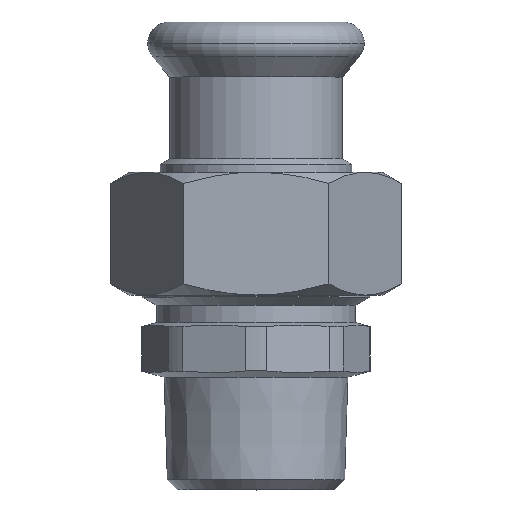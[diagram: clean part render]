
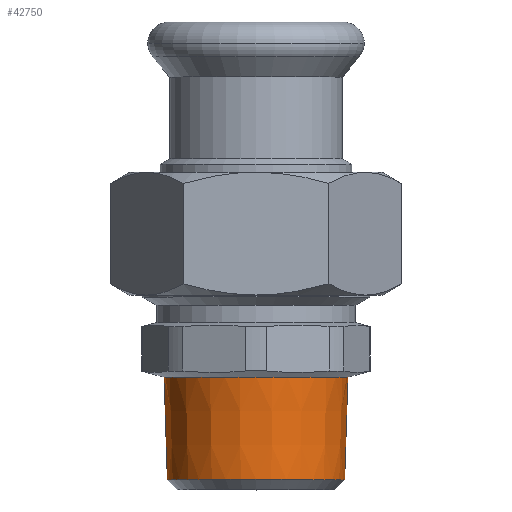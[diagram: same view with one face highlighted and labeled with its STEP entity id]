
A CAD part, top view. The second image highlights one B-rep face of the part: STEP entity #42750.
In plain terms, the highlighted conical face has half-angle 1.79 degrees and reference radius 13.453 mm.
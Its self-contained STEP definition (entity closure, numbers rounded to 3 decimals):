
#40180=CARTESIAN_POINT('',(-332.744,12.935,
0.));
#40190=VERTEX_POINT('',#40180);
#42300=CARTESIAN_POINT('',(-305.838,12.935,0.));
#42310=VERTEX_POINT('',#42300);
#42340=CARTESIAN_POINT('',(-319.291,12.935,0.));
#42350=DIRECTION('',(0.,1.,0.));
#42360=DIRECTION('',(1.,0.,0.));
#42370=AXIS2_PLACEMENT_3D('',#42340,#42350,#42360);
#42380=CIRCLE('',#42370,13.453);
#42390=EDGE_CURVE('',#40190,#42310,#42380,.T.);
#42440=CARTESIAN_POINT('',(-319.291,12.935,0.));
#42450=DIRECTION('',(0.,1.,0.));
#42460=DIRECTION('',(1.,0.,0.));
#42470=AXIS2_PLACEMENT_3D('',#42440,#42450,#42460);
#42480=CONICAL_SURFACE('',#42470,13.453,0.031);
#42490=CARTESIAN_POINT('',(-332.744,12.935,
0.));
#42500=DIRECTION('',(-0.031,1.,
0.));
#42510=VECTOR('',#42500,1.);
#42520=LINE('',#42490,#42510);
#42530=CARTESIAN_POINT('',(-332.275,-2.065,
0.));
#42540=VERTEX_POINT('',#42530);
#42550=EDGE_CURVE('',#42540,#40190,#42520,.T.);
#42560=ORIENTED_EDGE('',*,*,#42550,.F.);
#42570=ORIENTED_EDGE('',*,*,#42390,.F.);
#42580=CARTESIAN_POINT('',(-305.838,12.935,0.));
#42590=DIRECTION('',(0.031,1.,0.));
#42600=VECTOR('',#42590,1.);
#42610=LINE('',#42580,#42600);
#42620=CARTESIAN_POINT('',(-306.307,-2.065,0.));
#42630=VERTEX_POINT('',#42620);
#42640=EDGE_CURVE('',#42630,#42310,#42610,.T.);
#42650=ORIENTED_EDGE('',*,*,#42640,.T.);
#42660=CARTESIAN_POINT('',(-319.291,-2.065,0.));
#42670=DIRECTION('',(0.,1.,0.));
#42680=DIRECTION('',(1.,0.,0.));
#42690=AXIS2_PLACEMENT_3D('',#42660,#42670,#42680);
#42700=CIRCLE('',#42690,12.984);
#42710=EDGE_CURVE('',#42540,#42630,#42700,.T.);
#42720=ORIENTED_EDGE('',*,*,#42710,.T.);
#42730=EDGE_LOOP('',(#42720,#42650,#42570,#42560));
#42740=FACE_OUTER_BOUND('',#42730,.T.);
#42750=ADVANCED_FACE('',(#42740),#42480,.T.);
